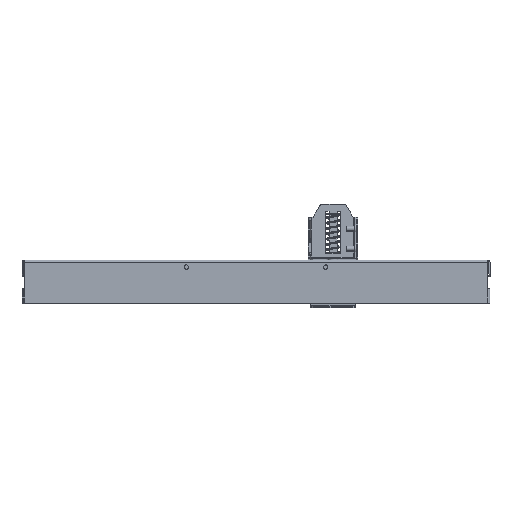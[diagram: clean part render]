
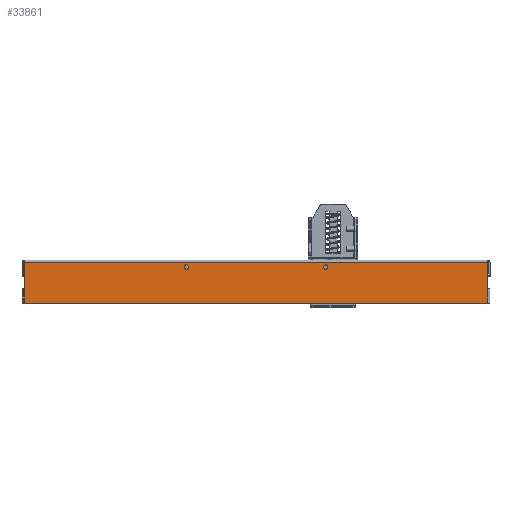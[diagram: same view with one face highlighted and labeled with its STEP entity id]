
A CAD part, front view. The second image highlights one B-rep face of the part: STEP entity #33861.
In plain terms, the highlighted planar face has unit normal (0, -1, 0).
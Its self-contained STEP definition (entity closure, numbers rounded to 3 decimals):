
#29576=CARTESIAN_POINT(' ',(-232.793,-107.5,-2.1));
#29577=VERTEX_POINT(' ',#29576);
#29591=CARTESIAN_POINT(' ',(232.793,-107.5,-2.1));
#29596=DIRECTION(' ',(-1.,0.,0.));
#29601=VECTOR(' ',#29596,1.);
#29606=LINE('',#29591,#29601);
#29611=CARTESIAN_POINT(' ',(232.793,-107.5,-2.1));
#29612=VERTEX_POINT(' ',#29611);
#29616=EDGE_CURVE(' ',#29612,#29577,#29606,.T.);
#33471=DIRECTION(' ',(0.,-1.,0.));
#33476=CARTESIAN_POINT(' ',(-232.793,-107.5,-2.1));
#33481=DIRECTION(' ',(0.,0.,-1.));
#33486=AXIS2_PLACEMENT_3D(' ',#33476,#33471,#33481);
#33491=PLANE('NONE',#33486);
#33496=CARTESIAN_POINT(' ',(-232.793,-107.5,-43.5));
#33501=DIRECTION(' ',(0.,0.,1.));
#33506=VECTOR(' ',#33501,1.);
#33511=LINE('',#33496,#33506);
#33516=CARTESIAN_POINT(' ',(-232.793,-107.5,-43.5));
#33517=VERTEX_POINT(' ',#33516);
#33521=CARTESIAN_POINT(' ',(-232.793,-107.5,-28.5));
#33522=VERTEX_POINT(' ',#33521);
#33526=EDGE_CURVE(' ',#33517,#33522,#33511,.T.);
#33531=ORIENTED_EDGE(' ',*,*,#33526,.F.);
#33536=CARTESIAN_POINT(' ',(232.793,-107.5,-43.5));
#33541=DIRECTION(' ',(-1.,0.,0.));
#33546=VECTOR(' ',#33541,1.);
#33551=LINE('',#33536,#33546);
#33556=CARTESIAN_POINT(' ',(232.793,-107.5,-43.5));
#33557=VERTEX_POINT(' ',#33556);
#33561=EDGE_CURVE(' ',#33557,#33517,#33551,.T.);
#33566=ORIENTED_EDGE(' ',*,*,#33561,.F.);
#33571=CARTESIAN_POINT(' ',(232.793,-107.5,-43.5));
#33576=DIRECTION(' ',(0.,0.,1.));
#33581=VECTOR(' ',#33576,1.);
#33586=LINE('',#33571,#33581);
#33591=CARTESIAN_POINT(' ',(232.793,-107.5,-28.5));
#33592=VERTEX_POINT(' ',#33591);
#33596=EDGE_CURVE(' ',#33557,#33592,#33586,.T.);
#33601=ORIENTED_EDGE(' ',*,*,#33596,.T.);
#33606=CARTESIAN_POINT(' ',(232.793,-107.5,-28.5));
#33611=DIRECTION(' ',(0.,0.,1.));
#33616=VECTOR(' ',#33611,1.);
#33621=LINE('',#33606,#33616);
#33626=EDGE_CURVE(' ',#33592,#29612,#33621,.T.);
#33631=ORIENTED_EDGE(' ',*,*,#33626,.T.);
#33636=ORIENTED_EDGE(' ',*,*,#29616,.T.);
#33641=CARTESIAN_POINT(' ',(-232.793,-107.5,-28.5));
#33646=DIRECTION(' ',(0.,0.,1.));
#33651=VECTOR(' ',#33646,1.);
#33656=LINE('',#33641,#33651);
#33661=EDGE_CURVE(' ',#33522,#29577,#33656,.T.);
#33666=ORIENTED_EDGE(' ',*,*,#33661,.F.);
#33671=EDGE_LOOP(' ',(#33531,#33566,#33601,#33631,#33636,#33666));
#33676=FACE_OUTER_BOUND(' ',#33671,.T.);
#33681=CARTESIAN_POINT(' ',(70.,-107.5,-7.));
#33686=DIRECTION(' ',(0.,-1.,0.));
#33691=DIRECTION(' ',(0.,0.,-1.));
#33696=AXIS2_PLACEMENT_3D(' ',#33681,#33686,#33691);
#33701=CIRCLE('',#33696,2.1);
#33706=CARTESIAN_POINT(' ',(70.,-107.5,-9.1));
#33707=VERTEX_POINT(' ',#33706);
#33711=CARTESIAN_POINT(' ',(70.,-107.5,-4.9));
#33712=VERTEX_POINT(' ',#33711);
#33716=EDGE_CURVE(' ',#33707,#33712,#33701,.T.);
#33721=ORIENTED_EDGE(' ',*,*,#33716,.F.);
#33726=CARTESIAN_POINT(' ',(70.,-107.5,-7.));
#33731=DIRECTION(' ',(0.,-1.,0.));
#33736=DIRECTION(' ',(0.,0.,1.));
#33741=AXIS2_PLACEMENT_3D(' ',#33726,#33731,#33736);
#33746=CIRCLE('',#33741,2.1);
#33751=EDGE_CURVE(' ',#33712,#33707,#33746,.T.);
#33756=ORIENTED_EDGE(' ',*,*,#33751,.F.);
#33761=EDGE_LOOP(' ',(#33721,#33756));
#33766=FACE_BOUND(' ',#33761,.T.);
#33771=CARTESIAN_POINT(' ',(-70.,-107.5,-7.));
#33776=DIRECTION(' ',(0.,-1.,0.));
#33781=DIRECTION(' ',(0.,0.,-1.));
#33786=AXIS2_PLACEMENT_3D(' ',#33771,#33776,#33781);
#33791=CIRCLE('',#33786,2.1);
#33796=CARTESIAN_POINT(' ',(-70.,-107.5,-9.1));
#33797=VERTEX_POINT(' ',#33796);
#33801=CARTESIAN_POINT(' ',(-70.,-107.5,-4.9));
#33802=VERTEX_POINT(' ',#33801);
#33806=EDGE_CURVE(' ',#33797,#33802,#33791,.T.);
#33811=ORIENTED_EDGE(' ',*,*,#33806,.F.);
#33816=CARTESIAN_POINT(' ',(-70.,-107.5,-7.));
#33821=DIRECTION(' ',(0.,-1.,0.));
#33826=DIRECTION(' ',(0.,0.,1.));
#33831=AXIS2_PLACEMENT_3D(' ',#33816,#33821,#33826);
#33836=CIRCLE('',#33831,2.1);
#33841=EDGE_CURVE(' ',#33802,#33797,#33836,.T.);
#33846=ORIENTED_EDGE(' ',*,*,#33841,.F.);
#33851=EDGE_LOOP(' ',(#33811,#33846));
#33856=FACE_BOUND(' ',#33851,.T.);
#33861=ADVANCED_FACE('NONE',(#33676,#33766,#33856),#33491,.T.);
